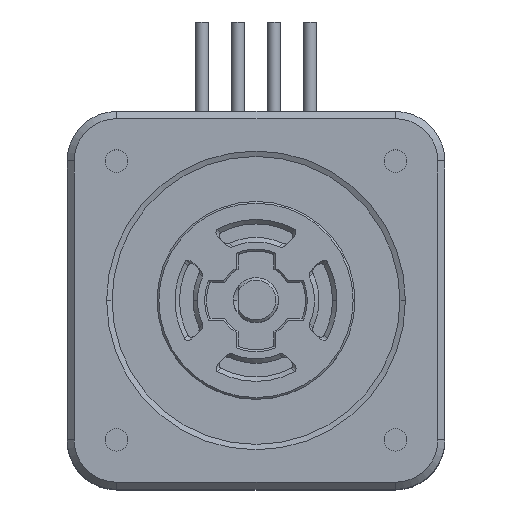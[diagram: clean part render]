
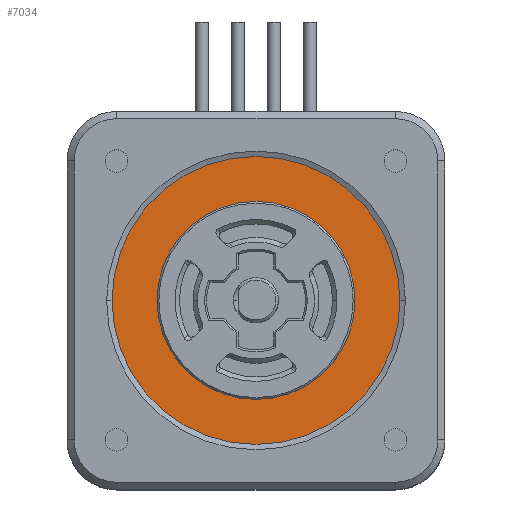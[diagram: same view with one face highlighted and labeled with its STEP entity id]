
A CAD part, top view. The second image highlights one B-rep face of the part: STEP entity #7034.
In plain terms, the highlighted planar face has unit normal (0, 0, 1).
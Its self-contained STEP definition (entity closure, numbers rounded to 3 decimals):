
#155 = ORIENTED_EDGE ( 'NONE', *, *, #7392, .T. ) ;
#257 = AXIS2_PLACEMENT_3D ( 'NONE', #8899, #3933, #9705 ) ;
#366 = AXIS2_PLACEMENT_3D ( 'NONE', #2784, #8587, #3614 ) ;
#752 = AXIS2_PLACEMENT_3D ( 'NONE', #4473, #10260, #5303 ) ;
#839 = VERTEX_POINT ( 'NONE', #10276 ) ;
#863 = CARTESIAN_POINT ( 'NONE',  ( 0., 0., -0.3 ) ) ;
#937 = ORIENTED_EDGE ( 'NONE', *, *, #1469, .T. ) ;
#1248 = ORIENTED_EDGE ( 'NONE', *, *, #1868, .F. ) ;
#1316 = ORIENTED_EDGE ( 'NONE', *, *, #8196, .F. ) ;
#1469 = EDGE_CURVE ( 'NONE', #839, #1524, #1588, .T. ) ;
#1524 = VERTEX_POINT ( 'NONE', #8654 ) ;
#1588 = CIRCLE ( 'NONE', #366, 16. ) ;
#1868 = EDGE_CURVE ( 'NONE', #5128, #6912, #2084, .T. ) ;
#2084 = CIRCLE ( 'NONE', #6249, 11. ) ;
#2260 = EDGE_LOOP ( 'NONE', ( #1316, #1248 ) ) ;
#2529 = DIRECTION ( 'NONE',  ( 0., 0., 1. ) ) ;
#2784 = CARTESIAN_POINT ( 'NONE',  ( 0., 0., -0.3 ) ) ;
#3459 = CIRCLE ( 'NONE', #257, 16. ) ;
#3614 = DIRECTION ( 'NONE',  ( 1., 0., 0. ) ) ;
#3755 = CARTESIAN_POINT ( 'NONE',  ( 0., 0., -0.3 ) ) ;
#3933 = DIRECTION ( 'NONE',  ( 0., 0., 1. ) ) ;
#4355 = EDGE_LOOP ( 'NONE', ( #937, #155 ) ) ;
#4356 = FACE_OUTER_BOUND ( 'NONE', #4355, .T. ) ;
#4473 = CARTESIAN_POINT ( 'NONE',  ( 0., 0., -0.3 ) ) ;
#4579 = DIRECTION ( 'NONE',  ( 1., 0., 0. ) ) ;
#5128 = VERTEX_POINT ( 'NONE', #6442 ) ;
#5303 = DIRECTION ( 'NONE',  ( 1., 0., 0. ) ) ;
#5498 = CIRCLE ( 'NONE', #752, 11. ) ;
#5659 = AXIS2_PLACEMENT_3D ( 'NONE', #863, #2529, #8333 ) ;
#6249 = AXIS2_PLACEMENT_3D ( 'NONE', #3755, #9539, #4579 ) ;
#6442 = CARTESIAN_POINT ( 'NONE',  ( 11., 0., -0.3 ) ) ;
#6912 = VERTEX_POINT ( 'NONE', #8141 ) ;
#7034 = ADVANCED_FACE ( 'NONE', ( #8786, #4356 ), #9117, .T. ) ;
#7392 = EDGE_CURVE ( 'NONE', #1524, #839, #3459, .T. ) ;
#8141 = CARTESIAN_POINT ( 'NONE',  ( -11., 0., -0.3 ) ) ;
#8196 = EDGE_CURVE ( 'NONE', #6912, #5128, #5498, .T. ) ;
#8333 = DIRECTION ( 'NONE',  ( 1., 0., 0. ) ) ;
#8587 = DIRECTION ( 'NONE',  ( 0., 0., 1. ) ) ;
#8654 = CARTESIAN_POINT ( 'NONE',  ( -16., 0., -0.3 ) ) ;
#8786 = FACE_BOUND ( 'NONE', #2260, .T. ) ;
#8899 = CARTESIAN_POINT ( 'NONE',  ( 0., 0., -0.3 ) ) ;
#9117 = PLANE ( 'NONE',  #5659 ) ;
#9539 = DIRECTION ( 'NONE',  ( 0., 0., 1. ) ) ;
#9705 = DIRECTION ( 'NONE',  ( 1., 0., 0. ) ) ;
#10260 = DIRECTION ( 'NONE',  ( 0., 0., 1. ) ) ;
#10276 = CARTESIAN_POINT ( 'NONE',  ( 16., 0., -0.3 ) ) ;
